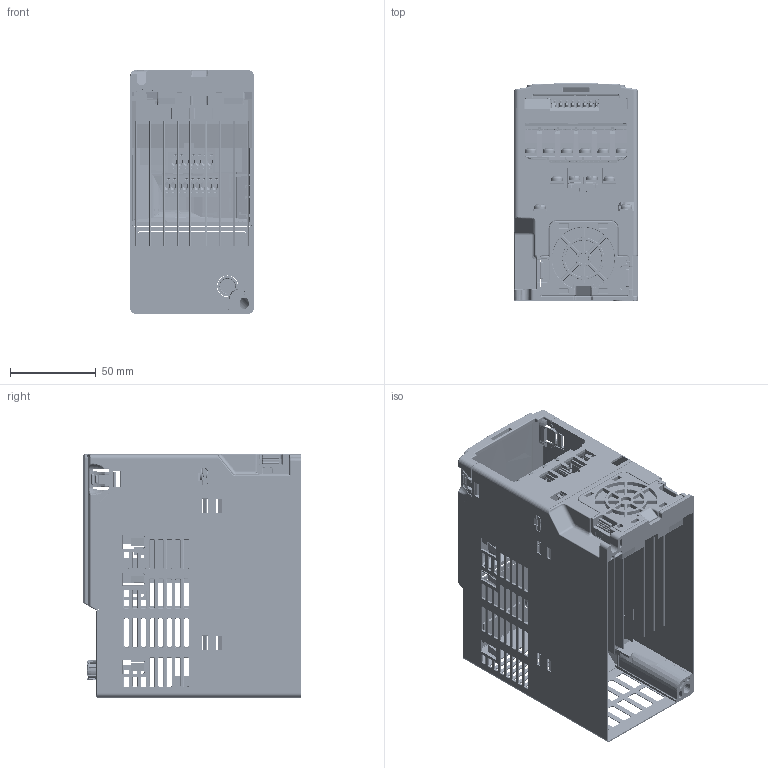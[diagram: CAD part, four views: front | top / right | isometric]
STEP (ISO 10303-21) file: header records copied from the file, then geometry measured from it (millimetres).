
FILE_DESCRIPTION((''),'2;1');
FILE_NAME('VFD-ME300-B1-PD-3D00_ASM','2019-01-25T17:31:57',('KEN.HUNG'),(''),'CREO PARAMETRIC BY PTC INC, 2018020','CREO PARAMETRIC BY PTC INC, 2018020','');
FILE_SCHEMA(('AUTOMOTIVE_DESIGN { 1 0 10303 214 1 1 1 1 }'));
Products named in the file (130): PRT0338; PRT0339; PRT0340; ASM0176_ASM_ASM_ASM; PRT0341; ASM0177_ASM_ASM_ASM; PRT0342; PRT0345; PRT0348; PRT0349; PRT0351; PRT0353_1; PRT0354_1; PRT0355; PRT0356; PRT0358; PRT0360; PRT0362; PRT0363; PRT0366_1; PRT0372_4; ASM0178_ASM_ASM_ASM; PRT0373_4; PRT0379_4; PRT0380_1; ASM0179_ASM_ASM_ASM; PRT0381; PRT0382; PRT0383; PRT0384; ASM0180_ASM_ASM_ASM; PRT0385; ASM0175_ASM_ASM_ASM; ASM0174_ASM_ASM_ASM; ASM0173_ASM_ASM_ASM; PRT0386; PRT0387; PRT0388; ASM0182_ASM_ASM_ASM; ASM0181_ASM_ASM_ASM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
Assembly tree (131 placements, depth 11):
  VFD-ME300-B1-PD-3D00_ASM
    VFD-ME300-B1-PD-3D00-KEN_ASM_ASM
      ASM0169_ASM_AF0_ASM_ASM
        ASM0170_ASM_AF0_ASM_ASM
          ASM0171_ASM_AF0_ASM_ASM
            ASM0172_ASM_AF0_ASM_ASM
              ASM0173_ASM_ASM_ASM
                ASM0174_ASM_ASM_ASM
                  ASM0175_ASM_ASM_ASM
              ASM0181_ASM_ASM_ASM
                ASM0182_ASM_ASM_ASM
                  PRT0386
                  PRT0387
                  PRT0388
              ASM0183_ASM_AF0_ASM_ASM
                ASM0184_ASM_AF0_ASM_ASM
                  PRT0389_AF0
                  PRT0390
                  PRT0391
                  PRT0392
              ASM0185_ASM_ASM_ASM
                ASM0186_ASM_ASM_ASM
                  PRT0393
                  PRT0394
                  PRT0395
                  PRT0396
                  PRT0397
                  PRT0398
                  PRT0399
              ASM0187_ASM_ASM_ASM
                PRT0400
              ASM0188_ASM_ASM_ASM
                ASM0189_ASM_ASM_ASM
                  PRT0401
                  PRT0402
                  PRT0403
                  PRT0404
                  PRT0405
                  PRT0406
                  PRT0407
                  PRT0408
                  PRT0409
              ASM0190_ASM_ASM_ASM
                ASM0191_ASM_ASM_ASM
                  PRT0410
                  PRT0411  x2
                  PRT0412
              ASM0192_ASM_ASM_ASM
                ASM0193_ASM_ASM_ASM
                  PRT0413
                  PRT0414
                PRT0415  x2
              PRT0416
            ASM0194_ASM_ASM_ASM
              ASM0195_ASM_ASM_ASM
                ASM0196_ASM_ASM_ASM
                  PRT0417
                  ASM0197_ASM_ASM_ASM
                  ASM0198_ASM_ASM_ASM
                  ASM0199_ASM_ASM_ASM
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Bounding box: 72 x 126.99 x 142 mm (x, y, z)
Volume: 111085.2 mm3; surface area: 168317.1 mm2
Topology: 78 solids, 101 shells, 7814 faces, 20966 edges, 13321 vertices
Faces by surface type: plane 4216, cylinder 2219, bspline 466, extrusion 326, cone 270, torus 243, sphere 62, revolution 12
Entity records: 351200 total; most frequent: CARTESIAN_POINT 77971, ORIENTED_EDGE 41138, DIRECTION 37793, PRESENTATION_STYLE_ASSIGNMENT 20723, STYLED_ITEM 20723, CURVE_STYLE 20636, EDGE_CURVE 20636, VECTOR 13608
